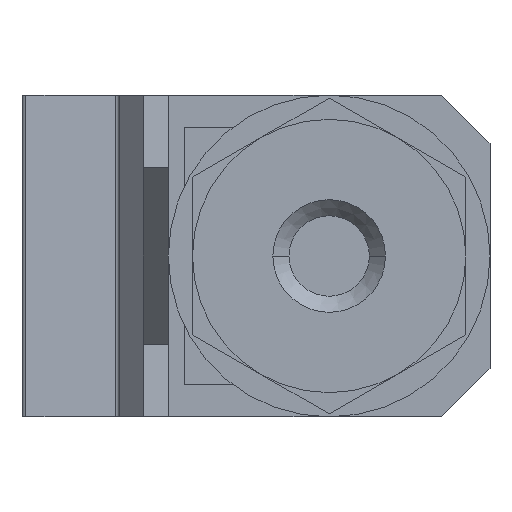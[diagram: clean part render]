
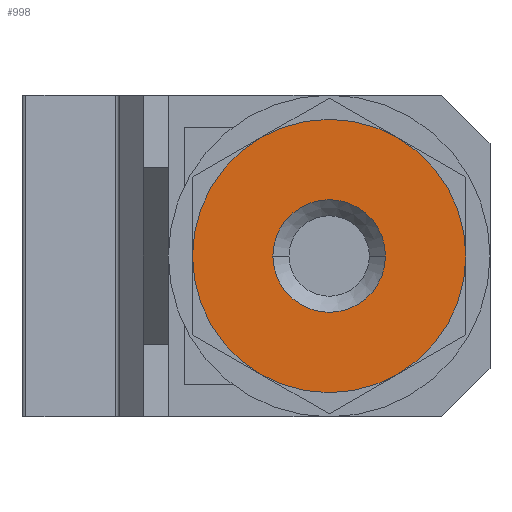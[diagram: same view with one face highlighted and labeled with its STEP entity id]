
A CAD part, front view. The second image highlights one B-rep face of the part: STEP entity #998.
In plain terms, the highlighted planar face has unit normal (0, -1, 0).
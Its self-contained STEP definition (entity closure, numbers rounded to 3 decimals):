
#87 = AXIS2_PLACEMENT_3D ( 'NONE', #3376, #1192, #3729 ) ;
#233 = CARTESIAN_POINT ( 'NONE',  ( 8.5, 0., 0. ) ) ;
#434 = VERTEX_POINT ( 'NONE', #2460 ) ;
#565 = CIRCLE ( 'NONE', #1506, 3.5 ) ;
#722 = EDGE_CURVE ( 'NONE', #1874, #434, #1917, .T. ) ;
#809 = ORIENTED_EDGE ( 'NONE', *, *, #2156, .F. ) ;
#856 = DIRECTION ( 'NONE',  ( 0., 1., 0. ) ) ;
#998 = ADVANCED_FACE ( 'NONE', ( #2718, #1855 ), #1889, .F. ) ;
#1041 = CARTESIAN_POINT ( 'NONE',  ( 0., 0., 0. ) ) ;
#1087 = DIRECTION ( 'NONE',  ( 0., 1., 0. ) ) ;
#1102 = DIRECTION ( 'NONE',  ( -1., 0., 0. ) ) ;
#1192 = DIRECTION ( 'NONE',  ( 0., 1., 0. ) ) ;
#1249 = VERTEX_POINT ( 'NONE', #233 ) ;
#1338 = AXIS2_PLACEMENT_3D ( 'NONE', #2296, #2604, #2280 ) ;
#1506 = AXIS2_PLACEMENT_3D ( 'NONE', #3043, #856, #3416 ) ;
#1592 = VERTEX_POINT ( 'NONE', #2154 ) ;
#1855 = FACE_OUTER_BOUND ( 'NONE', #3529, .T. ) ;
#1874 = VERTEX_POINT ( 'NONE', #2991 ) ;
#1889 = PLANE ( 'NONE',  #2813 ) ;
#1917 = CIRCLE ( 'NONE', #2014, 3.5 ) ;
#1930 = EDGE_LOOP ( 'NONE', ( #3200, #3070 ) ) ;
#2014 = AXIS2_PLACEMENT_3D ( 'NONE', #1041, #1087, #1102 ) ;
#2154 = CARTESIAN_POINT ( 'NONE',  ( -8.5, 0., 0. ) ) ;
#2156 = EDGE_CURVE ( 'NONE', #1249, #1592, #4002, .T. ) ;
#2280 = DIRECTION ( 'NONE',  ( -1., 0., 0. ) ) ;
#2296 = CARTESIAN_POINT ( 'NONE',  ( 0., 0., 0. ) ) ;
#2460 = CARTESIAN_POINT ( 'NONE',  ( 3.5, 0., 0. ) ) ;
#2604 = DIRECTION ( 'NONE',  ( 0., 1., 0. ) ) ;
#2718 = FACE_BOUND ( 'NONE', #1930, .T. ) ;
#2813 = AXIS2_PLACEMENT_3D ( 'NONE', #2994, #3024, #3039 ) ;
#2928 = ORIENTED_EDGE ( 'NONE', *, *, #4284, .F. ) ;
#2991 = CARTESIAN_POINT ( 'NONE',  ( -3.5, 0., 0. ) ) ;
#2994 = CARTESIAN_POINT ( 'NONE',  ( 0., 0., 0. ) ) ;
#3024 = DIRECTION ( 'NONE',  ( 0., 1., 0. ) ) ;
#3039 = DIRECTION ( 'NONE',  ( -1., 0., 0. ) ) ;
#3043 = CARTESIAN_POINT ( 'NONE',  ( 0., 0., 0. ) ) ;
#3070 = ORIENTED_EDGE ( 'NONE', *, *, #722, .T. ) ;
#3200 = ORIENTED_EDGE ( 'NONE', *, *, #4332, .T. ) ;
#3376 = CARTESIAN_POINT ( 'NONE',  ( 0., 0., 0. ) ) ;
#3416 = DIRECTION ( 'NONE',  ( -1., 0., 0. ) ) ;
#3529 = EDGE_LOOP ( 'NONE', ( #2928, #809 ) ) ;
#3729 = DIRECTION ( 'NONE',  ( -1., 0., 0. ) ) ;
#3768 = CIRCLE ( 'NONE', #87, 8.5 ) ;
#4002 = CIRCLE ( 'NONE', #1338, 8.5 ) ;
#4284 = EDGE_CURVE ( 'NONE', #1592, #1249, #3768, .T. ) ;
#4332 = EDGE_CURVE ( 'NONE', #434, #1874, #565, .T. ) ;
